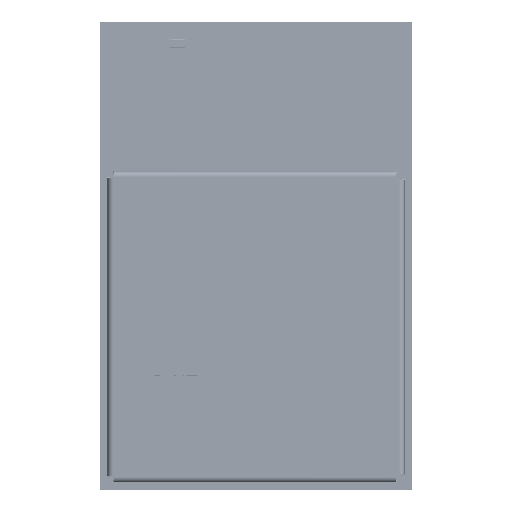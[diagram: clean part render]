
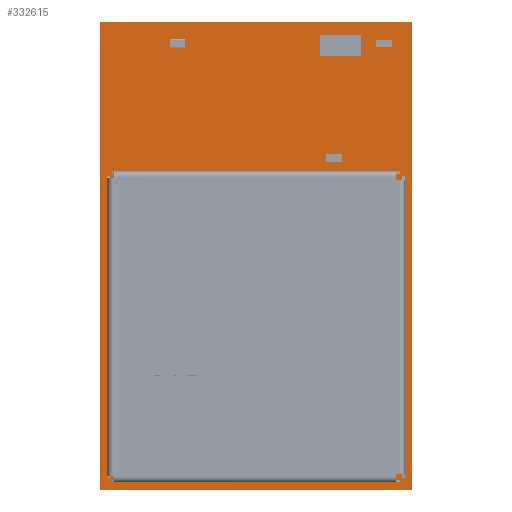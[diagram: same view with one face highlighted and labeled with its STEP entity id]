
A CAD part, top view. The second image highlights one B-rep face of the part: STEP entity #332615.
In plain terms, the highlighted planar face has unit normal (0, 0, 1).
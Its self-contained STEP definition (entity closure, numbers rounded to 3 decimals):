
#13406 = CARTESIAN_POINT ( 'NONE',  ( 0., 18., 0. ) ) ;
#19016 = DIRECTION ( 'NONE',  ( 1., 0., 0. ) ) ;
#24840 = DIRECTION ( 'NONE',  ( 0., -1., 0. ) ) ;
#30458 = DIRECTION ( 'NONE',  ( 0., 0., 1. ) ) ;
#40213 = ORIENTED_EDGE ( 'NONE', *, *, #684438, .T. ) ;
#82751 = CARTESIAN_POINT ( 'NONE',  ( 0., 0., 0. ) ) ;
#138581 = VECTOR ( 'NONE', #686475, 1000. ) ;
#144715 = LINE ( 'NONE', #344106, #138581 ) ;
#237684 = VECTOR ( 'NONE', #24840, 1000. ) ;
#241759 = CARTESIAN_POINT ( 'NONE',  ( 12., 0., 0. ) ) ;
#264778 = ORIENTED_EDGE ( 'NONE', *, *, #707286, .T. ) ;
#274400 = VECTOR ( 'NONE', #651315, 1000. ) ;
#295941 = AXIS2_PLACEMENT_3D ( 'NONE', #737638, #30458, #19016 ) ;
#296701 = ORIENTED_EDGE ( 'NONE', *, *, #613078, .T. ) ;
#303702 = FACE_OUTER_BOUND ( 'NONE', #351142, .T. ) ;
#309040 = CARTESIAN_POINT ( 'NONE',  ( 0., 0., 0. ) ) ;
#332615 = ADVANCED_FACE ( 'NONE', ( #303702 ), #703601, .T. ) ;
#334238 = VERTEX_POINT ( 'NONE', #534708 ) ;
#341988 = VERTEX_POINT ( 'NONE', #241759 ) ;
#344106 = CARTESIAN_POINT ( 'NONE',  ( 12., 0., 0. ) ) ;
#349056 = CARTESIAN_POINT ( 'NONE',  ( 12., 18., 0. ) ) ;
#351142 = EDGE_LOOP ( 'NONE', ( #296701, #516324, #264778, #40213 ) ) ;
#365194 = DIRECTION ( 'NONE',  ( -1., 0., 0. ) ) ;
#399916 = VERTEX_POINT ( 'NONE', #82751 ) ;
#419072 = LINE ( 'NONE', #480719, #584727 ) ;
#480719 = CARTESIAN_POINT ( 'NONE',  ( 12., 18., 0. ) ) ;
#516324 = ORIENTED_EDGE ( 'NONE', *, *, #721542, .T. ) ;
#534708 = CARTESIAN_POINT ( 'NONE',  ( 0., 18., 0. ) ) ;
#584727 = VECTOR ( 'NONE', #365194, 1000. ) ;
#594207 = LINE ( 'NONE', #13406, #237684 ) ;
#613078 = EDGE_CURVE ( 'NONE', #399916, #341988, #647613, .T. ) ;
#636210 = VERTEX_POINT ( 'NONE', #349056 ) ;
#647613 = LINE ( 'NONE', #309040, #274400 ) ;
#651315 = DIRECTION ( 'NONE',  ( 1., 0., 0. ) ) ;
#684438 = EDGE_CURVE ( 'NONE', #334238, #399916, #594207, .T. ) ;
#686475 = DIRECTION ( 'NONE',  ( 0., 1., 0. ) ) ;
#703601 = PLANE ( 'NONE',  #295941 ) ;
#707286 = EDGE_CURVE ( 'NONE', #636210, #334238, #419072, .T. ) ;
#721542 = EDGE_CURVE ( 'NONE', #341988, #636210, #144715, .T. ) ;
#737638 = CARTESIAN_POINT ( 'NONE',  ( 6., 9., 0. ) ) ;
